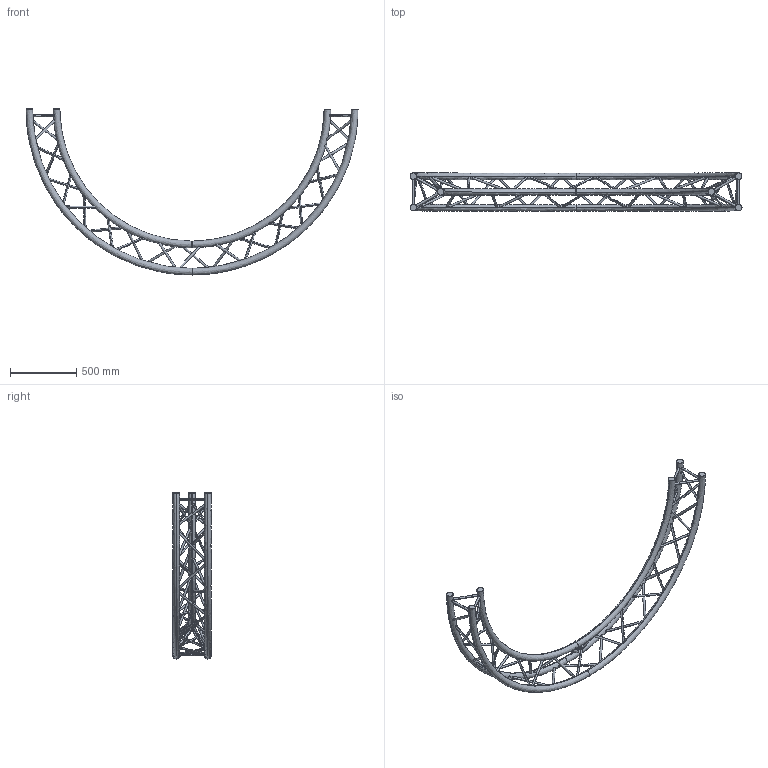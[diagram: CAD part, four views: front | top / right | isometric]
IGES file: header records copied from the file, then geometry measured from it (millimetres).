
Start section: SolidWorks IGES file using analytic representation for surfaces
Global section: file name: K:\BIBLIO\asd_biblio\SX290\Cercles\SXC29PI\SXC29250PI\SXC29250PI.IGS; native system: SolidWorks 2009; preprocessor: SolidWorks 2009; author: des3; date: 091021.105721; units: millimetre
Bounding box: 2500 x 287 x 1250 mm (x, y, z)
Surface area: 2336056.9 mm2 (no closed solid volume)
Topology: 0 solids, 0 shells, 120 faces, 8069 edges, 8069 vertices
Faces by surface type: revolution 102, bspline 18
